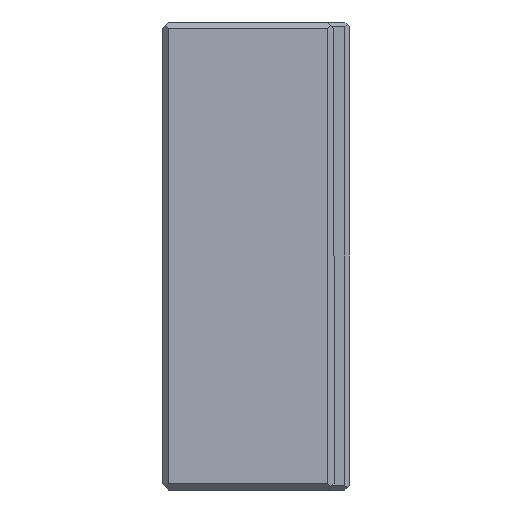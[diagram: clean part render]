
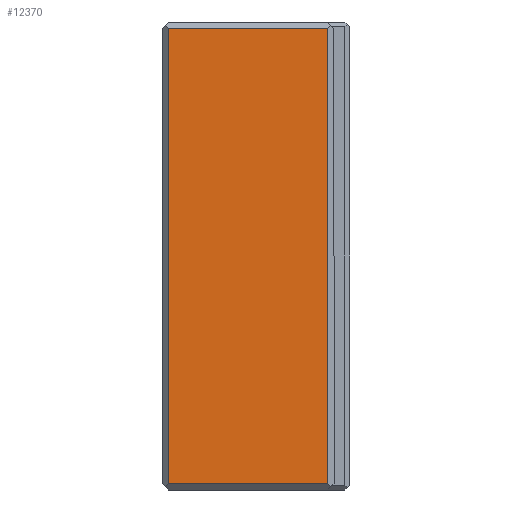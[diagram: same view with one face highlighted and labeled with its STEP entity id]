
A CAD part, left-side view. The second image highlights one B-rep face of the part: STEP entity #12370.
In plain terms, the highlighted planar face has unit normal (-1, 0, 0).
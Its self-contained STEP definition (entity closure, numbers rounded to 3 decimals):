
#2072 = EDGE_LOOP ( 'NONE', ( #2773, #2778, #2776, #2772 ) ) ;
#2282 = LINE ( 'NONE', #2288, #8690 ) ;
#2286 = LINE ( 'NONE', #2294, #8694 ) ;
#2288 = CARTESIAN_POINT ( 'NONE',  ( -5., 0.2, -7.3 ) ) ;
#2290 = DIRECTION ( 'NONE',  ( 0., -1., 0. ) ) ;
#2294 = CARTESIAN_POINT ( 'NONE',  ( -5., 5.3, 7.5 ) ) ;
#2295 = DIRECTION ( 'NONE',  ( 0., 0., -1. ) ) ;
#2297 = LINE ( 'NONE', #2312, #8697 ) ;
#2303 = CARTESIAN_POINT ( 'NONE',  ( -5., 0.2, 7.5 ) ) ;
#2309 = LINE ( 'NONE', #2303, #8702 ) ;
#2312 = CARTESIAN_POINT ( 'NONE',  ( -5., 5.3, 7.3 ) ) ;
#2313 = DIRECTION ( 'NONE',  ( 0., 1., 0. ) ) ;
#2322 = DIRECTION ( 'NONE',  ( 0., 0., -1. ) ) ;
#2772 = ORIENTED_EDGE ( 'NONE', *, *, #2941, .T. ) ;
#2773 = ORIENTED_EDGE ( 'NONE', *, *, #2935, .T. ) ;
#2776 = ORIENTED_EDGE ( 'NONE', *, *, #2944, .F. ) ;
#2778 = ORIENTED_EDGE ( 'NONE', *, *, #2933, .T. ) ;
#2933 = EDGE_CURVE ( 'NONE', #3929, #3815, #2282, .T. ) ;
#2935 = EDGE_CURVE ( 'NONE', #3805, #3929, #2286, .T. ) ;
#2941 = EDGE_CURVE ( 'NONE', #3814, #3805, #2297, .T. ) ;
#2944 = EDGE_CURVE ( 'NONE', #3814, #3815, #2309, .T. ) ;
#3805 = VERTEX_POINT ( 'NONE', #11267 ) ;
#3814 = VERTEX_POINT ( 'NONE', #11276 ) ;
#3815 = VERTEX_POINT ( 'NONE', #11277 ) ;
#3929 = VERTEX_POINT ( 'NONE', #11344 ) ;
#6640 = AXIS2_PLACEMENT_3D ( 'NONE', #7576, #7586, #7587 ) ;
#7576 = CARTESIAN_POINT ( 'NONE',  ( -5., 5.3, 7.5 ) ) ;
#7580 = PLANE ( 'NONE',  #6640 ) ;
#7584 = FACE_OUTER_BOUND ( 'NONE', #2072, .T. ) ;
#7586 = DIRECTION ( 'NONE',  ( 1., 0., 0. ) ) ;
#7587 = DIRECTION ( 'NONE',  ( 0., 0., -1. ) ) ;
#8690 = VECTOR ( 'NONE', #2290, 1000. ) ;
#8694 = VECTOR ( 'NONE', #2295, 1000. ) ;
#8697 = VECTOR ( 'NONE', #2313, 1000. ) ;
#8702 = VECTOR ( 'NONE', #2322, 1000. ) ;
#11267 = CARTESIAN_POINT ( 'NONE',  ( -5., 5.3, 7.3 ) ) ;
#11276 = CARTESIAN_POINT ( 'NONE',  ( -5., 0.2, 7.3 ) ) ;
#11277 = CARTESIAN_POINT ( 'NONE',  ( -5., 0.2, -7.3 ) ) ;
#11344 = CARTESIAN_POINT ( 'NONE',  ( -5., 5.3, -7.3 ) ) ;
#12370 = ADVANCED_FACE ( 'NONE', ( #7584 ), #7580, .F. ) ;
